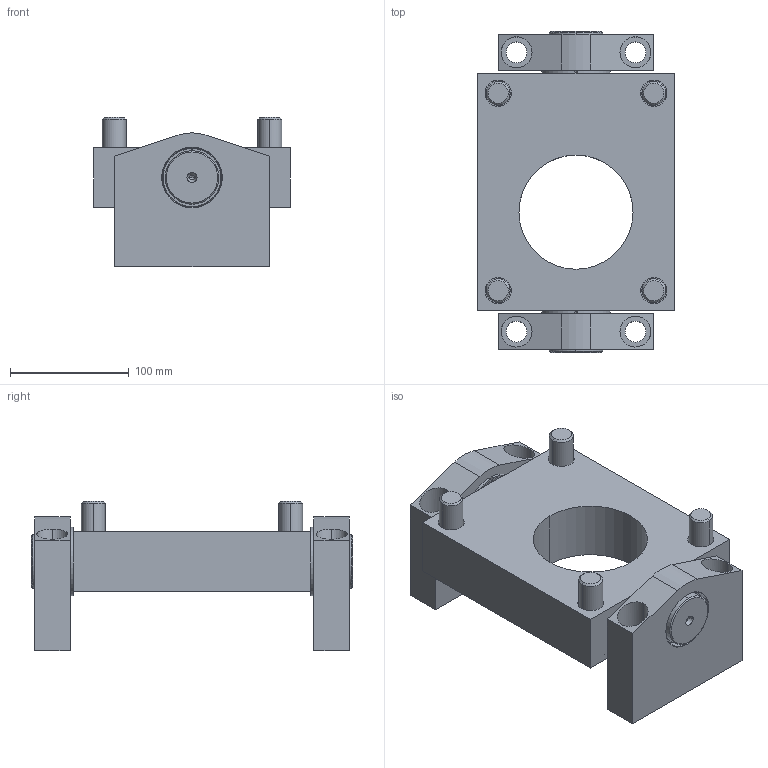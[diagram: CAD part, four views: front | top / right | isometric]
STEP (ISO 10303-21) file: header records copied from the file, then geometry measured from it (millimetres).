
FILE_DESCRIPTION (( 'STEP AP203' ), '1' );
FILE_NAME ('MJ5-KP(Z1)-SFK.STEP', '2024-01-16T10:17:37', ( '' ), ( '' ), 'SwSTEP 2.0', 'SolidWorks 2022', '' );
FILE_SCHEMA (( 'CONFIG_CONTROL_DESIGN' ));
Length unit declared in the file: millimetre
Products named in the file (1): MJ5-KP(Z1)-SFK
Bounding box: 165 x 270 x 125.6 mm (x, y, z)
Volume: 1976167 mm3; surface area: 279746.9 mm2
Topology: 9 solids, 9 shells, 220 faces, 530 edges, 336 vertices
Faces by surface type: plane 80, cylinder 76, cone 40, torus 24
Entity records: 6513 total; most frequent: CARTESIAN_POINT 1241, DIRECTION 1152, ORIENTED_EDGE 1036, EDGE_CURVE 518, AXIS2_PLACEMENT_3D 461, VERTEX_POINT 336, EDGE_LOOP 262, CIRCLE 240
